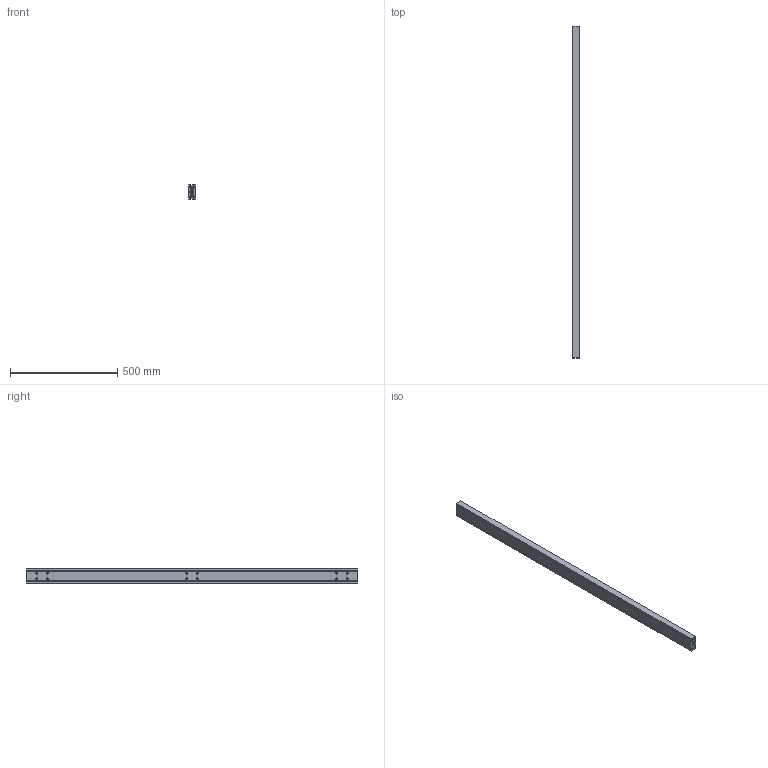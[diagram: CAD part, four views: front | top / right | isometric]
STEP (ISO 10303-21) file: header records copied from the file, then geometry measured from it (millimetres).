
FILE_DESCRIPTION(/* description */ (''),/* implementation_level */ '2;1');
FILE_NAME(/* name */ 'C:\Users\Miluxor\Desktop\Miluxor Schienen\Original Zeichnungen\Zeichnungen Schienen Komplett\MX-DTP70\MX-DTP70.155\MX-DTP70.155_eingefahren.stp',/* time_stamp */ '2020-11-23T14:27:34+01:00',/* author */ ('Miluxor'),/* organization */ (''),/* preprocessor_version */ 'ST-DEVELOPER v16.13',/* originating_system */ 'AutoCAD Mechanical',/* authorisation */ '');
FILE_SCHEMA (('AUTOMOTIVE_DESIGN { 1 0 10303 214 3 1 1 }'));
Length unit declared in the file: millimetre
Products named in the file (1): Product
Bounding box: 32 x 1550 x 70 mm (x, y, z)
Volume: 2641398.5 mm3; surface area: 873708.5 mm2
Topology: 61 solids, 63 shells, 190 faces, 632 edges, 456 vertices
Faces by surface type: plane 82, sphere 56, cylinder 38, bspline 8, torus 6
Full cylindrical faces by diameter (mm): 8 x24, 13 x2
Entity records: 12955 total; most frequent: CARTESIAN_POINT 7587, DIRECTION 1090, ORIENTED_EDGE 828, EDGE_CURVE 486, VERTEX_POINT 454, AXIS2_PLACEMENT_3D 439, EDGE_LOOP 386, CIRCLE 252
